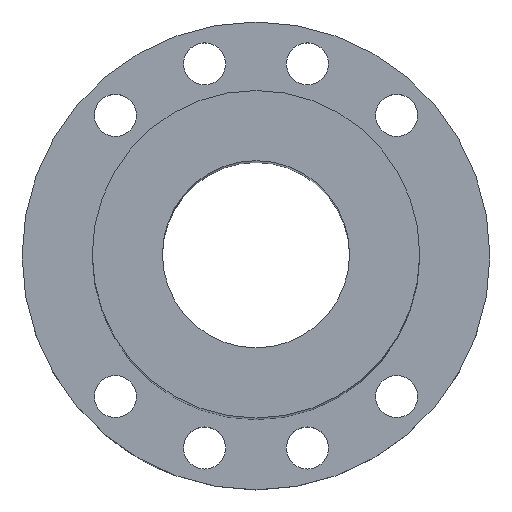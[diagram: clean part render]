
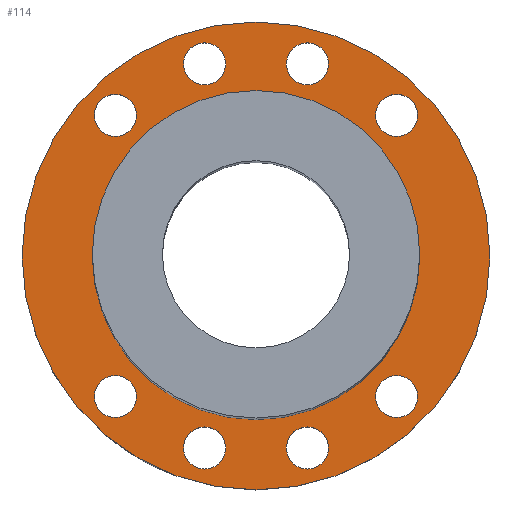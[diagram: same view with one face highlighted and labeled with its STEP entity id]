
A CAD part, top view. The second image highlights one B-rep face of the part: STEP entity #114.
In plain terms, the highlighted planar face has unit normal (0, 0, 1).
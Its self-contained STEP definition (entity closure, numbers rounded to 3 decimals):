
#99=PLANE('',#401);
#114=ADVANCED_FACE('',(#169,#170,#171,#172,#173,#174,#175,#176,#177,#178),
#99,.T.);
#169=FACE_BOUND('',#221,.T.);
#170=FACE_BOUND('',#222,.T.);
#171=FACE_BOUND('',#223,.T.);
#172=FACE_BOUND('',#224,.T.);
#173=FACE_BOUND('',#225,.T.);
#174=FACE_BOUND('',#226,.T.);
#175=FACE_BOUND('',#227,.T.);
#176=FACE_BOUND('',#228,.T.);
#177=FACE_BOUND('',#229,.T.);
#178=FACE_BOUND('',#230,.T.);
#221=EDGE_LOOP('',(#273));
#222=EDGE_LOOP('',(#274));
#223=EDGE_LOOP('',(#275));
#224=EDGE_LOOP('',(#276));
#225=EDGE_LOOP('',(#277));
#226=EDGE_LOOP('',(#278));
#227=EDGE_LOOP('',(#279));
#228=EDGE_LOOP('',(#280));
#229=EDGE_LOOP('',(#281));
#230=EDGE_LOOP('',(#282));
#273=ORIENTED_EDGE('',*,*,#316,.T.);
#274=ORIENTED_EDGE('',*,*,#318,.T.);
#275=ORIENTED_EDGE('',*,*,#337,.T.);
#276=ORIENTED_EDGE('',*,*,#336,.F.);
#277=ORIENTED_EDGE('',*,*,#335,.F.);
#278=ORIENTED_EDGE('',*,*,#334,.T.);
#279=ORIENTED_EDGE('',*,*,#333,.T.);
#280=ORIENTED_EDGE('',*,*,#332,.F.);
#281=ORIENTED_EDGE('',*,*,#331,.F.);
#282=ORIENTED_EDGE('',*,*,#338,.T.);
#290=VERTEX_POINT('',#495);
#292=VERTEX_POINT('',#557);
#305=VERTEX_POINT('',#644);
#306=VERTEX_POINT('',#647);
#307=VERTEX_POINT('',#650);
#308=VERTEX_POINT('',#653);
#309=VERTEX_POINT('',#656);
#310=VERTEX_POINT('',#659);
#311=VERTEX_POINT('',#662);
#312=VERTEX_POINT('',#665);
#316=EDGE_CURVE('',#290,#290,#342,.T.);
#318=EDGE_CURVE('',#292,#292,#343,.T.);
#331=EDGE_CURVE('',#305,#305,#355,.T.);
#332=EDGE_CURVE('',#306,#306,#356,.T.);
#333=EDGE_CURVE('',#307,#307,#357,.T.);
#334=EDGE_CURVE('',#308,#308,#358,.T.);
#335=EDGE_CURVE('',#309,#309,#359,.T.);
#336=EDGE_CURVE('',#310,#310,#360,.T.);
#337=EDGE_CURVE('',#311,#311,#361,.T.);
#338=EDGE_CURVE('',#312,#312,#362,.T.);
#342=CIRCLE('',#367,50.);
#343=CIRCLE('',#369,35.);
#355=CIRCLE('',#385,4.5);
#356=CIRCLE('',#387,4.5);
#357=CIRCLE('',#389,4.5);
#358=CIRCLE('',#391,4.5);
#359=CIRCLE('',#393,4.5);
#360=CIRCLE('',#395,4.5);
#361=CIRCLE('',#397,4.5);
#362=CIRCLE('',#399,4.5);
#367=AXIS2_PLACEMENT_3D('',#494,#411,#412);
#369=AXIS2_PLACEMENT_3D('',#556,#415,#416);
#385=AXIS2_PLACEMENT_3D('',#643,#447,#448);
#387=AXIS2_PLACEMENT_3D('',#646,#451,#452);
#389=AXIS2_PLACEMENT_3D('',#649,#455,#456);
#391=AXIS2_PLACEMENT_3D('',#652,#459,#460);
#393=AXIS2_PLACEMENT_3D('',#655,#463,#464);
#395=AXIS2_PLACEMENT_3D('',#658,#467,#468);
#397=AXIS2_PLACEMENT_3D('',#661,#471,#472);
#399=AXIS2_PLACEMENT_3D('',#664,#475,#476);
#401=AXIS2_PLACEMENT_3D('',#667,#479,#480);
#411=DIRECTION('',(0.,0.,1.));
#412=DIRECTION('',(1.,0.,0.));
#415=DIRECTION('',(0.,0.,-1.));
#416=DIRECTION('',(1.,0.,0.));
#447=DIRECTION('',(0.,0.,1.));
#448=DIRECTION('',(-1.,0.,0.));
#451=DIRECTION('',(0.,0.,1.));
#452=DIRECTION('',(1.,0.,0.));
#455=DIRECTION('',(0.,0.,-1.));
#456=DIRECTION('',(1.,0.,0.));
#459=DIRECTION('',(0.,0.,-1.));
#460=DIRECTION('',(1.,0.,0.));
#463=DIRECTION('',(0.,0.,1.));
#464=DIRECTION('',(1.,0.,0.));
#467=DIRECTION('',(0.,0.,1.));
#468=DIRECTION('',(-1.,0.,0.));
#471=DIRECTION('',(0.,0.,-1.));
#472=DIRECTION('',(-1.,0.,0.));
#475=DIRECTION('',(0.,0.,-1.));
#476=DIRECTION('',(-1.,0.,0.));
#479=DIRECTION('',(0.,0.,1.));
#480=DIRECTION('',(1.,0.,0.));
#494=CARTESIAN_POINT('',(0.,0.,14.));
#495=CARTESIAN_POINT('',(50.,0.,14.));
#556=CARTESIAN_POINT('',(0.,0.,14.));
#557=CARTESIAN_POINT('',(35.,0.,14.));
#643=CARTESIAN_POINT('',(30.052,-30.052,14.));
#644=CARTESIAN_POINT('',(25.552,-30.052,14.));
#646=CARTESIAN_POINT('',(-30.052,30.052,14.));
#647=CARTESIAN_POINT('',(-25.552,30.052,14.));
#649=CARTESIAN_POINT('',(-30.052,-30.052,14.));
#650=CARTESIAN_POINT('',(-25.552,-30.052,14.));
#652=CARTESIAN_POINT('',(-11.,-41.052,14.));
#653=CARTESIAN_POINT('',(-6.5,-41.052,14.));
#655=CARTESIAN_POINT('',(-11.,41.052,14.));
#656=CARTESIAN_POINT('',(-6.5,41.052,14.));
#658=CARTESIAN_POINT('',(11.,-41.052,14.));
#659=CARTESIAN_POINT('',(6.5,-41.052,14.));
#661=CARTESIAN_POINT('',(11.,41.052,14.));
#662=CARTESIAN_POINT('',(6.5,41.052,14.));
#664=CARTESIAN_POINT('',(30.052,30.052,14.));
#665=CARTESIAN_POINT('',(25.552,30.052,14.));
#667=CARTESIAN_POINT('',(3.667,13.684,14.));
